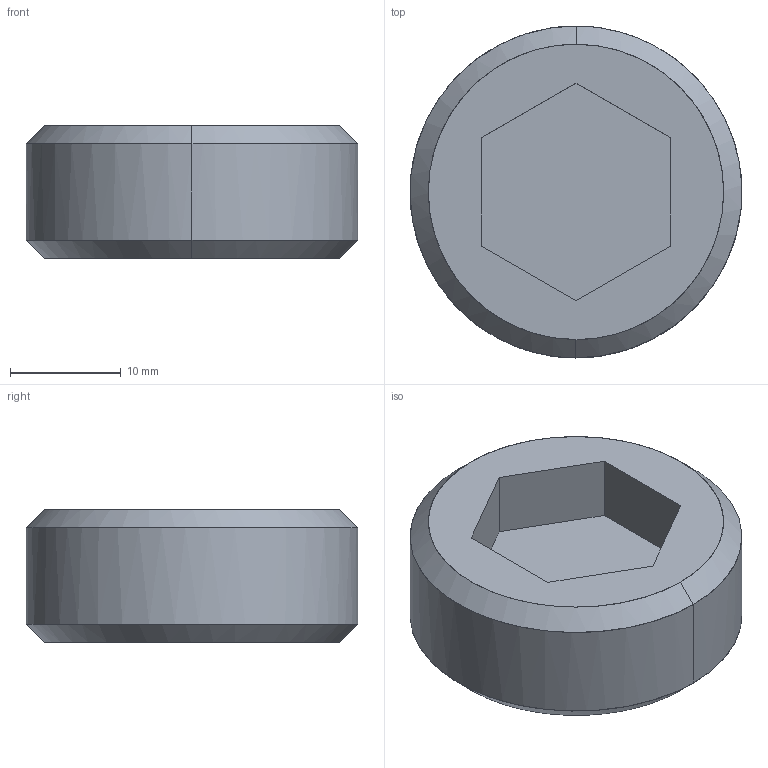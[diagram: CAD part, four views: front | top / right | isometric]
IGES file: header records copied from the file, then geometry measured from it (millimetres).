
Global section: file name: E:\UnigraphicsGraphicData\MISUMI_PRESS-PARTS\IGES\3d_msw30_00515_r00.igs; native system: NX V5.0; preprocessor: UGS NX IGES V5.0; author: MISUMI; date: 20110105.161522; units: millimetre
Bounding box: 29.98 x 30 x 12 mm (x, y, z)
Surface area: 2709 mm2 (no closed solid volume)
Topology: 0 solids, 0 shells, 15 faces, 92 edges, 92 vertices
Faces by surface type: bspline 15
